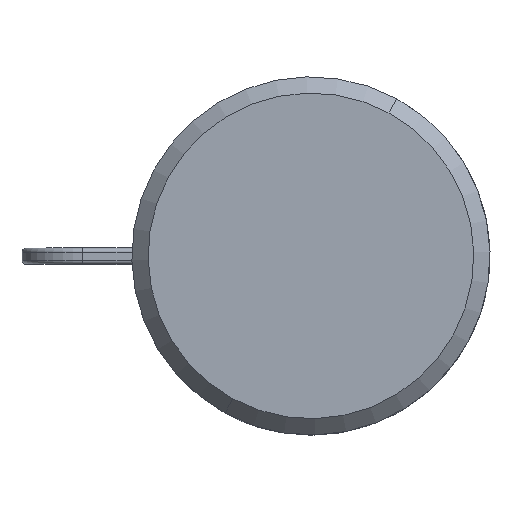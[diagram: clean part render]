
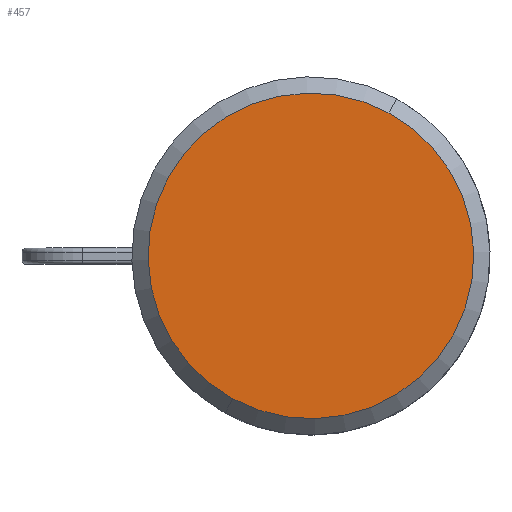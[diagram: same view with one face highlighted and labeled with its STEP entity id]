
A CAD part, top view. The second image highlights one B-rep face of the part: STEP entity #457.
In plain terms, the highlighted planar face has unit normal (0, 0, 1).
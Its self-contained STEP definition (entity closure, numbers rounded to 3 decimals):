
#434=CARTESIAN_POINT('Axis2P3D Location',(0.,-20.,60.)) ;
#439=CARTESIAN_POINT('Axis2P3D Location',(0.,0.,60.)) ;
#443=CARTESIAN_POINT('Vertex',(-9.589,-17.552,60.)) ;
#445=CARTESIAN_POINT('Vertex',(9.589,17.552,60.)) ;
#448=CARTESIAN_POINT('Axis2P3D Location',(0.,0.,60.)) ;
#435=DIRECTION('Axis2P3D Direction',(0.,0.,-1.)) ;
#436=DIRECTION('Axis2P3D XDirection',(1.,0.,0.)) ;
#440=DIRECTION('Axis2P3D Direction',(0.,0.,-1.)) ;
#449=DIRECTION('Axis2P3D Direction',(0.,0.,-1.)) ;
#437=AXIS2_PLACEMENT_3D('Plane Axis2P3D',#434,#435,#436) ;
#441=AXIS2_PLACEMENT_3D('Circle Axis2P3D',#439,#440,$) ;
#450=AXIS2_PLACEMENT_3D('Circle Axis2P3D',#448,#449,$) ;
#442=CIRCLE('generated circle',#441,20.) ;
#451=CIRCLE('generated circle',#450,20.) ;
#438=PLANE('',#437) ;
#447=EDGE_CURVE('',#444,#446,#442,.T.) ;
#452=EDGE_CURVE('',#446,#444,#451,.T.) ;
#454=ORIENTED_EDGE('',*,*,#447,.F.) ;
#455=ORIENTED_EDGE('',*,*,#452,.F.) ;
#453=EDGE_LOOP('',(#454,#455)) ;
#444=VERTEX_POINT('',#443) ;
#446=VERTEX_POINT('',#445) ;
#457=ADVANCED_FACE('Brep With Voids',(#456),#438,.F.) ;
#456=FACE_OUTER_BOUND('',#453,.T.) ;
